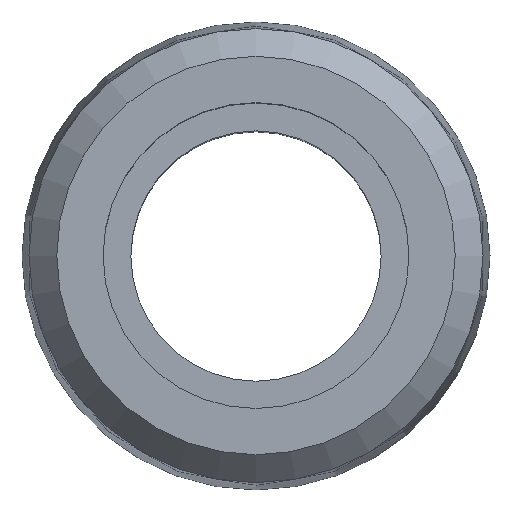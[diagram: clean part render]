
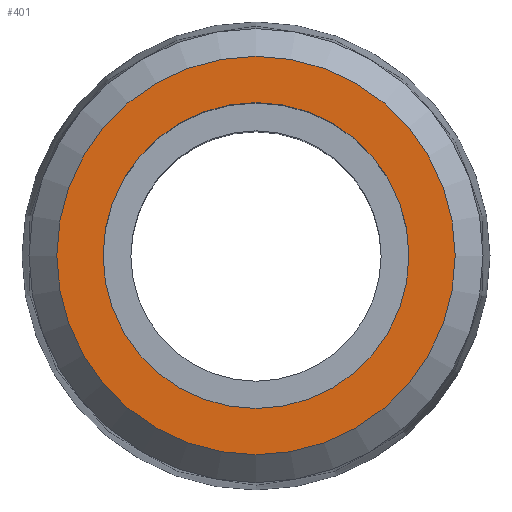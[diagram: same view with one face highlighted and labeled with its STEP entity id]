
A CAD part, top view. The second image highlights one B-rep face of the part: STEP entity #401.
In plain terms, the highlighted planar face has unit normal (0, 0, 1).
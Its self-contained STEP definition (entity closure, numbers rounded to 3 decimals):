
#21=FACE_BOUND('',#117,.T.);
#58=CIRCLE('',#452,5.5);
#59=CIRCLE('',#454,7.163);
#85=FACE_OUTER_BOUND('',#116,.T.);
#116=EDGE_LOOP('',(#339));
#117=EDGE_LOOP('',(#340));
#205=VERTEX_POINT('',#695);
#206=VERTEX_POINT('',#698);
#256=EDGE_CURVE('',#205,#205,#58,.T.);
#257=EDGE_CURVE('',#206,#206,#59,.T.);
#339=ORIENTED_EDGE('',*,*,#257,.F.);
#340=ORIENTED_EDGE('',*,*,#256,.T.);
#378=PLANE('',#453);
#401=ADVANCED_FACE('',(#85,#21),#378,.T.);
#452=AXIS2_PLACEMENT_3D('',#696,#575,#576);
#453=AXIS2_PLACEMENT_3D('',#697,#577,#578);
#454=AXIS2_PLACEMENT_3D('',#699,#579,#580);
#575=DIRECTION('center_axis',(0.,0.,-1.));
#576=DIRECTION('ref_axis',(1.,0.,0.));
#577=DIRECTION('center_axis',(0.,0.,1.));
#578=DIRECTION('ref_axis',(1.,0.,0.));
#579=DIRECTION('center_axis',(0.,0.,-1.));
#580=DIRECTION('ref_axis',(1.,0.,0.));
#695=CARTESIAN_POINT('',(0.,5.5,14.5));
#696=CARTESIAN_POINT('Origin',(0.,0.,14.5));
#697=CARTESIAN_POINT('Origin',(0.,7.163,14.5));
#698=CARTESIAN_POINT('',(0.,7.163,14.5));
#699=CARTESIAN_POINT('Origin',(0.,0.,14.5));
